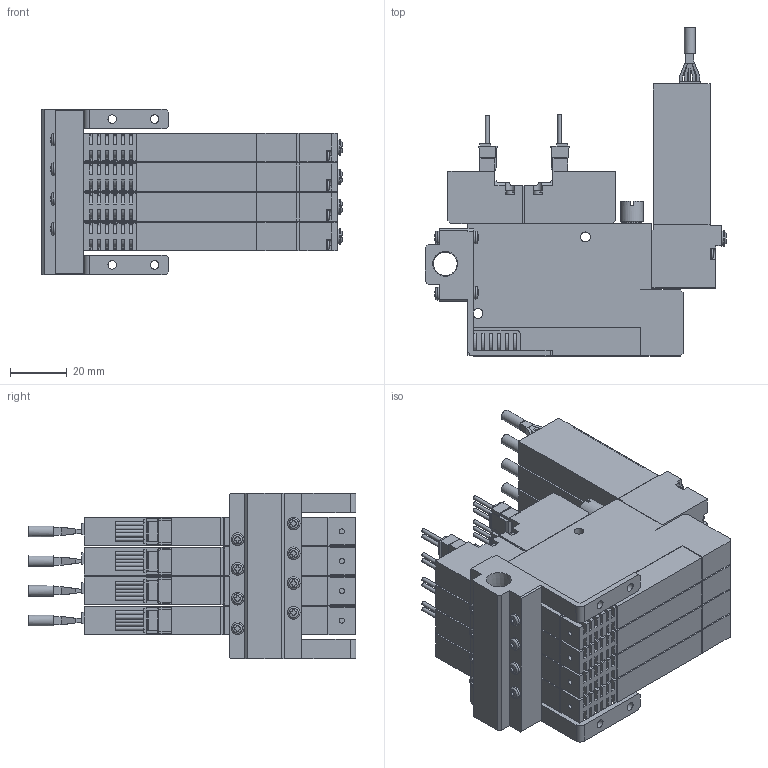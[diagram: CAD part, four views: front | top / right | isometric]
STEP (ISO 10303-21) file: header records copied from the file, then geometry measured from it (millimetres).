
FILE_DESCRIPTION(('STEP AP203'),'1');
FILE_NAME('5WS404_3D.stp','2024-09-04T13:56:31',(' '),(' '),'Spatial InterOp 3D',' ',' ');
FILE_SCHEMA(('CONFIG_CONTROL_DESIGN'));
Length unit declared in the file: millimetre
Products named in the file (5): BSC1M※※V9※5WS404; Solenoid valve W; Pressure Sensor V9; Unit-S; BaseMS40R
Assembly tree (13 placements, depth 2):
  BSC1M※※V9※5WS404
    Solenoid valve W  x4
    Pressure Sensor V9  x4
    Unit-S  x4
    BaseMS40R
Bounding box: 106.35 x 115.8 x 58.5 mm (x, y, z)
Volume: 239890.9 mm3; surface area: 95480.8 mm2
Topology: 13 solids, 13 shells, 2135 faces, 5855 edges, 3870 vertices
Faces by surface type: plane 1586, cylinder 479, torus 24, sphere 24, cone 22
Full cylindrical faces by diameter (mm): 1.4 x20, 1.8 x4, 2.5 x8, 3 x20, 3.5 x32, 3.8 x4, 4 x4, 4.134 x8, 4.5 x12, 5.5 x8, 7 x4, 7.7 x4, 8 x4, 8.422 x1
Entity records: 22338 total; most frequent: CARTESIAN_POINT 4822, ORIENTED_EDGE 3508, DIRECTION 3488, EDGE_CURVE 1754, LINE 1268, VECTOR 1268, VERTEX_POINT 1208, AXIS2_PLACEMENT_3D 1110
